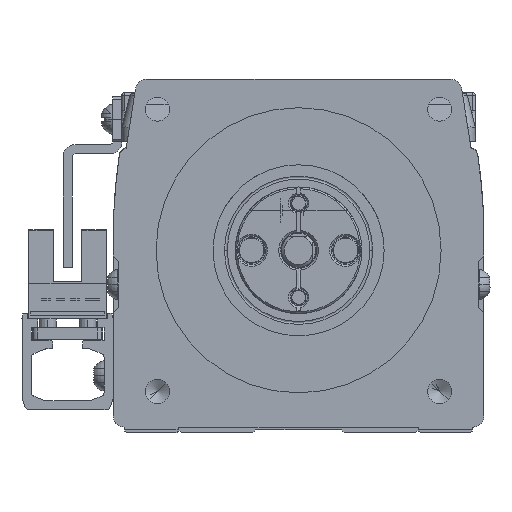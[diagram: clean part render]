
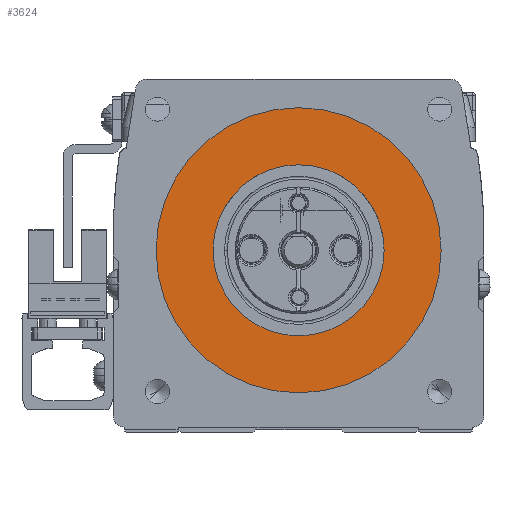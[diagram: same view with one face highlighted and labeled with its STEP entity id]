
A CAD part, left-side view. The second image highlights one B-rep face of the part: STEP entity #3624.
In plain terms, the highlighted planar face has unit normal (-1, 0, 0).
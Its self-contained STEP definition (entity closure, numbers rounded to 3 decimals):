
#3624=ADVANCED_FACE('',(#6476,#6477),#6478,.F.);
#6476=FACE_BOUND('',#12470,.T.);
#6477=FACE_OUTER_BOUND('',#12471,.T.);
#6478=PLANE('',#12472);
#12470=EDGE_LOOP('',(#20699,#20700));
#12471=EDGE_LOOP('',(#20701,#20702));
#12472=AXIS2_PLACEMENT_3D('',#20703,#20704,#20705);
#20699=ORIENTED_EDGE('',*,*,#43213,.T.);
#20700=ORIENTED_EDGE('',*,*,#43311,.T.);
#20701=ORIENTED_EDGE('',*,*,#43344,.T.);
#20702=ORIENTED_EDGE('',*,*,#43205,.T.);
#20703=CARTESIAN_POINT('',(-76.5,0.,0.));
#20704=DIRECTION('',(1.0,0.,0.));
#20705=DIRECTION('',(0.,1.0,0.));
#43205=EDGE_CURVE('',#50524,#50521,#50525,.T.);
#43213=EDGE_CURVE('',#50538,#50535,#50539,.T.);
#43311=EDGE_CURVE('',#50535,#50538,#50700,.T.);
#43344=EDGE_CURVE('',#50521,#50524,#50757,.T.);
#50521=VERTEX_POINT('',#62627);
#50524=VERTEX_POINT('',#62631);
#50525=CIRCLE('',#62632,25.0);
#50535=VERTEX_POINT('',#62667);
#50538=VERTEX_POINT('',#62671);
#50539=CIRCLE('',#62672,15.0);
#50700=CIRCLE('',#62954,15.0);
#50757=CIRCLE('',#63090,25.0);
#62627=CARTESIAN_POINT('',(-76.5,25.,0.));
#62631=CARTESIAN_POINT('',(-76.5,-25.,0.));
#62632=AXIS2_PLACEMENT_3D('',#81147,#81148,#81149);
#62667=CARTESIAN_POINT('',(-76.5,15.0,0.));
#62671=CARTESIAN_POINT('',(-76.5,-15.,0.));
#62672=AXIS2_PLACEMENT_3D('',#81157,#81158,#81159);
#62954=AXIS2_PLACEMENT_3D('',#81317,#81318,#81319);
#63090=AXIS2_PLACEMENT_3D('',#81374,#81375,#81376);
#81147=CARTESIAN_POINT('',(-76.5,0.,0.));
#81148=DIRECTION('',(-1.0,0.,0.));
#81149=DIRECTION('',(0.,1.0,0.));
#81157=CARTESIAN_POINT('',(-76.5,0.,0.));
#81158=DIRECTION('',(1.0,0.,0.));
#81159=DIRECTION('',(0.,1.0,0.));
#81317=CARTESIAN_POINT('',(-76.5,0.,0.));
#81318=DIRECTION('',(1.0,0.,0.));
#81319=DIRECTION('',(0.,1.0,0.));
#81374=CARTESIAN_POINT('',(-76.5,0.,0.));
#81375=DIRECTION('',(-1.0,0.,0.));
#81376=DIRECTION('',(0.,1.0,0.));
